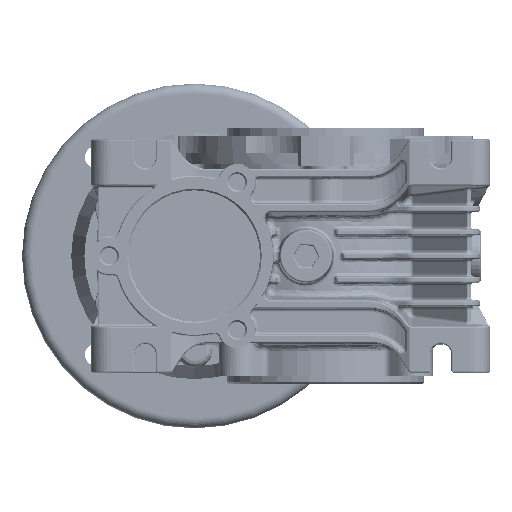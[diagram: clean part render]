
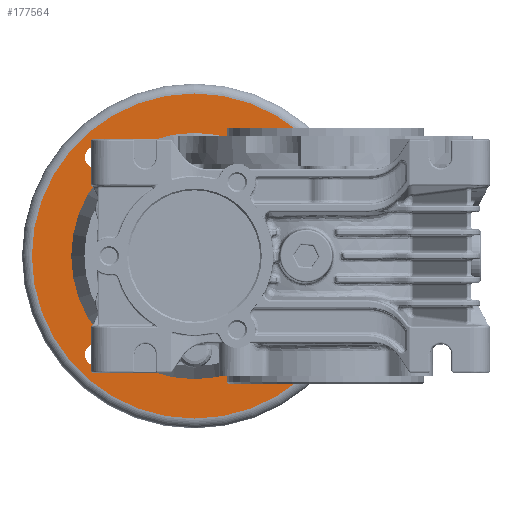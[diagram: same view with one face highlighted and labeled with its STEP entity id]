
A CAD part, left-side view. The second image highlights one B-rep face of the part: STEP entity #177564.
In plain terms, the highlighted planar face has unit normal (-1, 0, 0).
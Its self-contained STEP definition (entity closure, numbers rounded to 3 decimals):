
#22 = ORIENTED_EDGE ( 'NONE', *, *, #140177, .F. ) ;
#1524 = DIRECTION ( 'NONE',  ( 0., 0., 1. ) ) ;
#3201 = DIRECTION ( 'NONE',  ( 0., 0., 1. ) ) ;
#4117 = VERTEX_POINT ( 'NONE', #129247 ) ;
#4290 = EDGE_CURVE ( 'NONE', #47029, #96601, #12962, .T. ) ;
#6389 = EDGE_LOOP ( 'NONE', ( #174887, #33542 ) ) ;
#7496 = ORIENTED_EDGE ( 'NONE', *, *, #154456, .F. ) ;
#11461 = DIRECTION ( 'NONE',  ( 0., 0., -1. ) ) ;
#12962 = CIRCLE ( 'NONE', #25876, 3.3 ) ;
#16389 = DIRECTION ( 'NONE',  ( 0., 0., 1. ) ) ;
#17444 = CARTESIAN_POINT ( 'NONE',  ( 60.5, 89.5, 0. ) ) ;
#20531 = CIRCLE ( 'NONE', #76281, 3.3 ) ;
#20806 = CIRCLE ( 'NONE', #33004, 3.3 ) ;
#21390 = CARTESIAN_POINT ( 'NONE',  ( 60.5, 70.052, 30.052 ) ) ;
#24005 = CARTESIAN_POINT ( 'NONE',  ( 60.5, 70.052, -33.352 ) ) ;
#24401 = EDGE_CURVE ( 'NONE', #54356, #34013, #77849, .T. ) ;
#25876 = AXIS2_PLACEMENT_3D ( 'NONE', #225303, #120767, #16389 ) ;
#29522 = CARTESIAN_POINT ( 'NONE',  ( 60.5, 9.948, -33.352 ) ) ;
#30003 = FACE_BOUND ( 'NONE', #223446, .T. ) ;
#30214 = AXIS2_PLACEMENT_3D ( 'NONE', #66644, #188752, #84183 ) ;
#30520 = CIRCLE ( 'NONE', #30214, 37.495 ) ;
#31503 = CARTESIAN_POINT ( 'NONE',  ( 60.5, 70.052, 33.352 ) ) ;
#33004 = AXIS2_PLACEMENT_3D ( 'NONE', #212013, #107447, #3201 ) ;
#33542 = ORIENTED_EDGE ( 'NONE', *, *, #24401, .F. ) ;
#34013 = VERTEX_POINT ( 'NONE', #24005 ) ;
#34983 = DIRECTION ( 'NONE',  ( 0., 0., 1. ) ) ;
#38458 = AXIS2_PLACEMENT_3D ( 'NONE', #39970, #162026, #57447 ) ;
#38943 = DIRECTION ( 'NONE',  ( 0., 0., 1. ) ) ;
#39760 = AXIS2_PLACEMENT_3D ( 'NONE', #205443, #100882, #222949 ) ;
#39970 = CARTESIAN_POINT ( 'NONE',  ( 60.5, 70.052, 30.052 ) ) ;
#40452 = AXIS2_PLACEMENT_3D ( 'NONE', #17444, #139397, #34983 ) ;
#41465 = EDGE_LOOP ( 'NONE', ( #169793, #118127 ) ) ;
#41697 = CARTESIAN_POINT ( 'NONE',  ( 60.5, 40., -37.495 ) ) ;
#42771 = CARTESIAN_POINT ( 'NONE',  ( 60.5, 70.052, -30.052 ) ) ;
#43990 = VERTEX_POINT ( 'NONE', #56108 ) ;
#46119 = VERTEX_POINT ( 'NONE', #143543 ) ;
#47029 = VERTEX_POINT ( 'NONE', #171031 ) ;
#48095 = CIRCLE ( 'NONE', #110880, 49.5 ) ;
#54356 = VERTEX_POINT ( 'NONE', #87995 ) ;
#56108 = CARTESIAN_POINT ( 'NONE',  ( 60.5, 9.948, 26.752 ) ) ;
#57447 = DIRECTION ( 'NONE',  ( 0., 0., 1. ) ) ;
#57937 = DIRECTION ( 'NONE',  ( 1., 0., 0. ) ) ;
#58877 = CARTESIAN_POINT ( 'NONE',  ( 60.5, 40., 0. ) ) ;
#60265 = DIRECTION ( 'NONE',  ( 0., 0., 1. ) ) ;
#60570 = EDGE_CURVE ( 'NONE', #4117, #46119, #48095, .T. ) ;
#61610 = CARTESIAN_POINT ( 'NONE',  ( 60.5, 40., 37.495 ) ) ;
#64634 = DIRECTION ( 'NONE',  ( -1., 0., 0. ) ) ;
#66644 = CARTESIAN_POINT ( 'NONE',  ( 60.5, 40., 0. ) ) ;
#70011 = CIRCLE ( 'NONE', #209469, 3.3 ) ;
#74310 = ORIENTED_EDGE ( 'NONE', *, *, #4290, .F. ) ;
#76278 = FACE_BOUND ( 'NONE', #100309, .T. ) ;
#76281 = AXIS2_PLACEMENT_3D ( 'NONE', #21390, #143343, #38943 ) ;
#76342 = DIRECTION ( 'NONE',  ( 0., 0., -1. ) ) ;
#77849 = CIRCLE ( 'NONE', #100622, 3.3 ) ;
#83555 = CIRCLE ( 'NONE', #211857, 37.495 ) ;
#84183 = DIRECTION ( 'NONE',  ( 0., 0., -1. ) ) ;
#87259 = CARTESIAN_POINT ( 'NONE',  ( 60.5, 9.948, 33.352 ) ) ;
#87995 = CARTESIAN_POINT ( 'NONE',  ( 60.5, 70.052, -26.752 ) ) ;
#88912 = EDGE_CURVE ( 'NONE', #119199, #43990, #149454, .T. ) ;
#90178 = EDGE_CURVE ( 'NONE', #34013, #54356, #70011, .T. ) ;
#93577 = CIRCLE ( 'NONE', #38458, 3.3 ) ;
#96601 = VERTEX_POINT ( 'NONE', #29522 ) ;
#100309 = EDGE_LOOP ( 'NONE', ( #144040, #7496 ) ) ;
#100622 = AXIS2_PLACEMENT_3D ( 'NONE', #210316, #105751, #1524 ) ;
#100882 = DIRECTION ( 'NONE',  ( -1., 0., 0. ) ) ;
#105751 = DIRECTION ( 'NONE',  ( -1., 0., 0. ) ) ;
#107160 = ORIENTED_EDGE ( 'NONE', *, *, #189239, .T. ) ;
#107447 = DIRECTION ( 'NONE',  ( -1., 0., 0. ) ) ;
#110880 = AXIS2_PLACEMENT_3D ( 'NONE', #220341, #115790, #11461 ) ;
#115790 = DIRECTION ( 'NONE',  ( 1., 0., 0. ) ) ;
#118127 = ORIENTED_EDGE ( 'NONE', *, *, #201174, .F. ) ;
#119199 = VERTEX_POINT ( 'NONE', #87259 ) ;
#120767 = DIRECTION ( 'NONE',  ( -1., 0., 0. ) ) ;
#122785 = FACE_BOUND ( 'NONE', #6389, .T. ) ;
#129247 = CARTESIAN_POINT ( 'NONE',  ( 60.5, 40., -49.5 ) ) ;
#131253 = VERTEX_POINT ( 'NONE', #172065 ) ;
#131404 = ORIENTED_EDGE ( 'NONE', *, *, #88912, .F. ) ;
#133749 = CIRCLE ( 'NONE', #147533, 3.3 ) ;
#138668 = EDGE_CURVE ( 'NONE', #199580, #177719, #30520, .T. ) ;
#139353 = CIRCLE ( 'NONE', #193030, 49.5 ) ;
#139397 = DIRECTION ( 'NONE',  ( -1., 0., 0. ) ) ;
#140177 = EDGE_CURVE ( 'NONE', #43990, #119199, #133749, .T. ) ;
#143343 = DIRECTION ( 'NONE',  ( -1., 0., 0. ) ) ;
#143543 = CARTESIAN_POINT ( 'NONE',  ( 60.5, 40., 49.5 ) ) ;
#144040 = ORIENTED_EDGE ( 'NONE', *, *, #192886, .F. ) ;
#147533 = AXIS2_PLACEMENT_3D ( 'NONE', #169213, #64634, #186749 ) ;
#149454 = CIRCLE ( 'NONE', #39760, 3.3 ) ;
#154456 = EDGE_CURVE ( 'NONE', #186213, #131253, #20531, .T. ) ;
#162026 = DIRECTION ( 'NONE',  ( -1., 0., 0. ) ) ;
#162522 = CARTESIAN_POINT ( 'NONE',  ( 60.5, 40., 0. ) ) ;
#163765 = FACE_OUTER_BOUND ( 'NONE', #41465, .T. ) ;
#164841 = DIRECTION ( 'NONE',  ( -1., 0., 0. ) ) ;
#169213 = CARTESIAN_POINT ( 'NONE',  ( 60.5, 9.948, 30.052 ) ) ;
#169793 = ORIENTED_EDGE ( 'NONE', *, *, #60570, .F. ) ;
#171031 = CARTESIAN_POINT ( 'NONE',  ( 60.5, 9.948, -26.752 ) ) ;
#172065 = CARTESIAN_POINT ( 'NONE',  ( 60.5, 70.052, 26.752 ) ) ;
#174887 = ORIENTED_EDGE ( 'NONE', *, *, #90178, .F. ) ;
#177564 = ADVANCED_FACE ( 'NONE', ( #215571, #30003, #76278, #122785, #210156, #163765 ), #208881, .T. ) ;
#177719 = VERTEX_POINT ( 'NONE', #41697 ) ;
#180061 = DIRECTION ( 'NONE',  ( 0., 0., -1. ) ) ;
#180271 = ORIENTED_EDGE ( 'NONE', *, *, #214546, .F. ) ;
#180972 = DIRECTION ( 'NONE',  ( 1., 0., 0. ) ) ;
#186213 = VERTEX_POINT ( 'NONE', #31503 ) ;
#186749 = DIRECTION ( 'NONE',  ( 0., 0., 1. ) ) ;
#188752 = DIRECTION ( 'NONE',  ( 1., 0., 0. ) ) ;
#189239 = EDGE_CURVE ( 'NONE', #177719, #199580, #83555, .T. ) ;
#192886 = EDGE_CURVE ( 'NONE', #131253, #186213, #93577, .T. ) ;
#193030 = AXIS2_PLACEMENT_3D ( 'NONE', #58877, #180972, #76342 ) ;
#195867 = EDGE_LOOP ( 'NONE', ( #107160, #221953 ) ) ;
#199580 = VERTEX_POINT ( 'NONE', #61610 ) ;
#201174 = EDGE_CURVE ( 'NONE', #46119, #4117, #139353, .T. ) ;
#205443 = CARTESIAN_POINT ( 'NONE',  ( 60.5, 9.948, 30.052 ) ) ;
#208881 = PLANE ( 'NONE',  #40452 ) ;
#209469 = AXIS2_PLACEMENT_3D ( 'NONE', #42771, #164841, #60265 ) ;
#210156 = FACE_BOUND ( 'NONE', #195867, .T. ) ;
#210316 = CARTESIAN_POINT ( 'NONE',  ( 60.5, 70.052, -30.052 ) ) ;
#211857 = AXIS2_PLACEMENT_3D ( 'NONE', #162522, #57937, #180061 ) ;
#212013 = CARTESIAN_POINT ( 'NONE',  ( 60.5, 9.948, -30.052 ) ) ;
#214546 = EDGE_CURVE ( 'NONE', #96601, #47029, #20806, .T. ) ;
#215571 = FACE_BOUND ( 'NONE', #223699, .T. ) ;
#220341 = CARTESIAN_POINT ( 'NONE',  ( 60.5, 40., 0. ) ) ;
#221953 = ORIENTED_EDGE ( 'NONE', *, *, #138668, .T. ) ;
#222949 = DIRECTION ( 'NONE',  ( 0., 0., 1. ) ) ;
#223446 = EDGE_LOOP ( 'NONE', ( #180271, #74310 ) ) ;
#223699 = EDGE_LOOP ( 'NONE', ( #22, #131404 ) ) ;
#225303 = CARTESIAN_POINT ( 'NONE',  ( 60.5, 9.948, -30.052 ) ) ;
